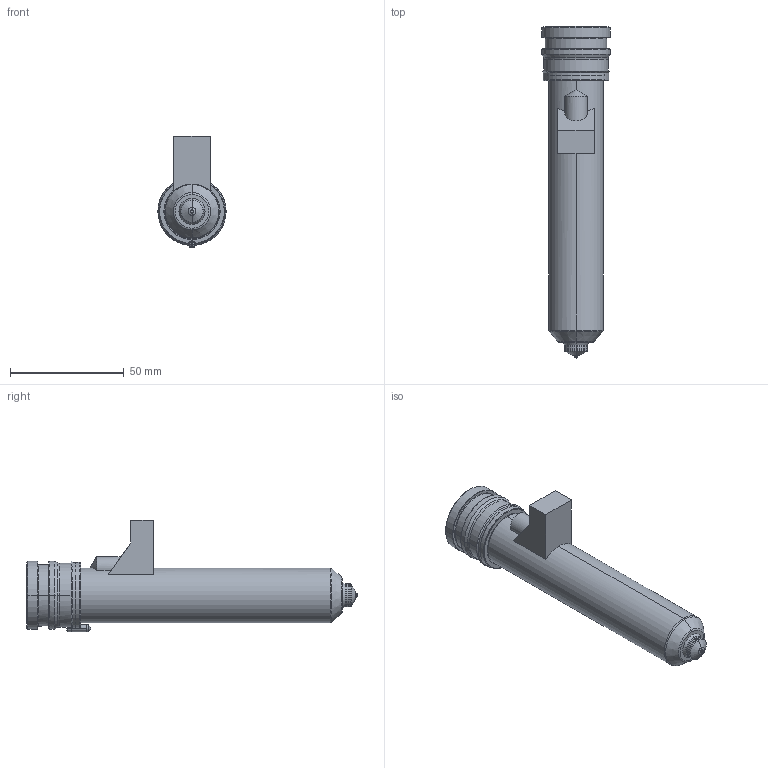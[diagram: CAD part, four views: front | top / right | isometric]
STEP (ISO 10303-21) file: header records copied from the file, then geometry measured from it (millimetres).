
FILE_DESCRIPTION((''),'2;1');
FILE_NAME('MPN-10-29-VSA10-126-M','2026-02-05T13:01:00',('UPTIO'),('Thermoplay S.p.A.'),'CREO PARAMETRIC BY PTC INC, 2023494','CREO PARAMETRIC BY PTC INC, 2023494','');
FILE_SCHEMA(('CONFIG_CONTROL_DESIGN','SHAPE_APPEARANCE_LAYERS_GROUPS'));
Length unit declared in the file: millimetre
Products named in the file (1): MPN-10-29-VSA10-126-M
Bounding box: 30 x 146 x 49 mm (x, y, z)
Volume: 46068.1 mm3; surface area: 47356.5 mm2
Topology: 3 solids, 5 shells, 546 faces, 1379 edges, 839 vertices
Faces by surface type: cylinder 181, plane 145, bspline 71, torus 69, cone 68, sphere 8, extrusion 4
Entity records: 26247 total; most frequent: CARTESIAN_POINT 10383, ORIENTED_EDGE 2744, DIRECTION 2618, EDGE_CURVE 1372, AXIS2_PLACEMENT_3D 1038, VERTEX_POINT 839, EDGE_LOOP 575, CIRCLE 566
